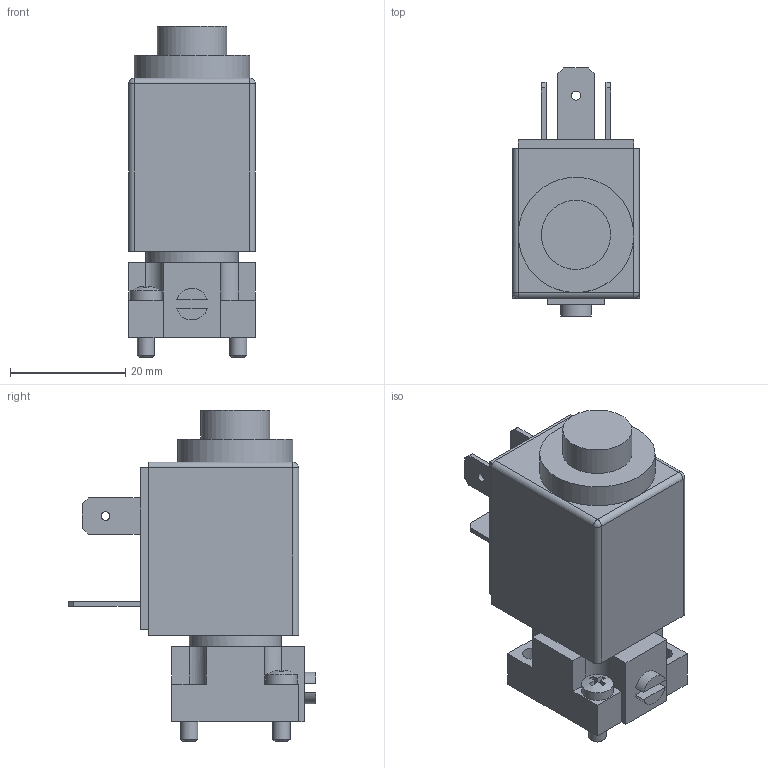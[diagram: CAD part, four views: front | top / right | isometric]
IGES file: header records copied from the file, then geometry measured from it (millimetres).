
Global section: file name: M5_B; native system: Autodesk Inventor 2014; preprocessor: unknown; author: A. Manieri; date: 20161004.160026; units: millimetre
Bounding box: 22 x 43 x 57.5 mm (x, y, z)
Volume: 25757.9 mm3; surface area: 10273.1 mm2
Topology: 4 solids, 4 shells, 148 faces, 388 edges, 265 vertices
Faces by surface type: bspline 148
